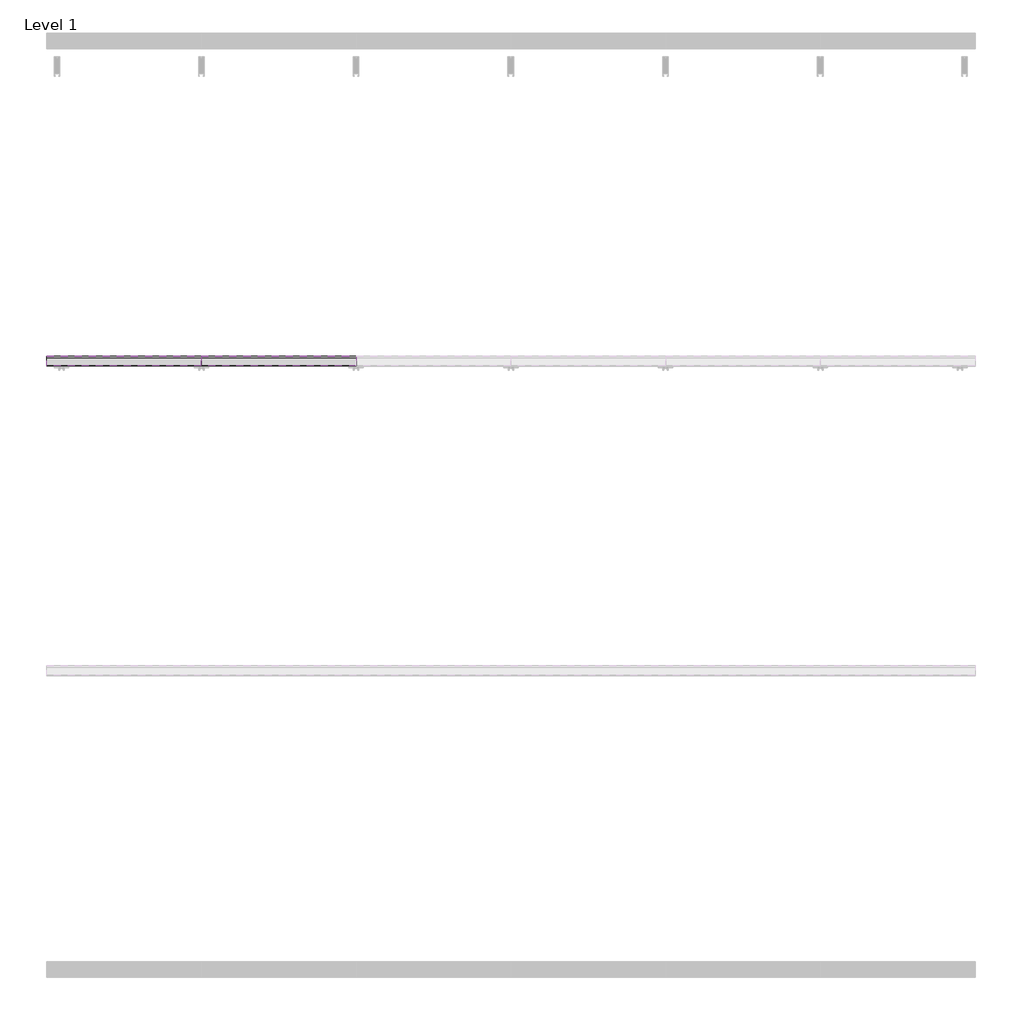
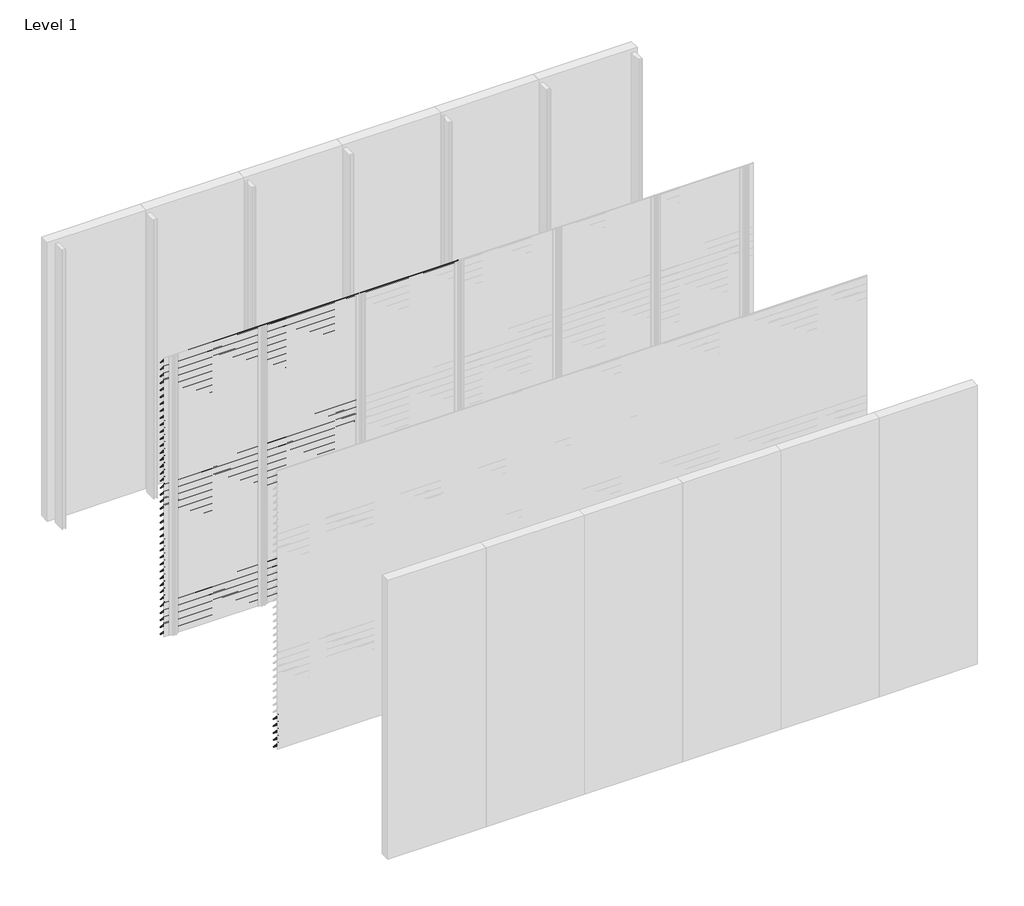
# One storey, part 4 of 35: 86 proxies.
"""IFC4 building model written with IfcOpenShell, lengths in millimetres."""

from ifc_helpers import new_model, si_unit, frame, origin, place, context, project, spatial, polyline, outline, extrude, element, save

model = new_model("IFC4")

# Units and contexts
model_context = context("Model", 3, world=origin())
ifc_project = project(units=[si_unit("LENGTHUNIT", "METRE", prefix="MILLI")], contexts=[model_context])

# Site, building, storey
site = spatial("IfcSite", under=ifc_project)
building = spatial("IfcBuilding", under=site)
storey = spatial("IfcBuildingStorey", under=building, Name="Level 1", Elevation=0.0)

# Proxies
placement = place(None, origin())
element("IfcBuildingElementProxy", 1, Name="Wall Sweeps", at=placement, inside=storey, context=model_context, shape_type="SweptSolid", body=[
    extrude(outline(polyline([(-53996.5, 3000.0), (-53996.5, 2985.5463701), (-53934.5, 2913.9330051), (-53934.5, 2910.4), (-53936.0, 2910.4), (-53936.0, 2913.3738975), (-53998.0, 2984.9872626), (-53998.0, 3000.0), (-53996.5, 3000.0)])), frame((0.0, 0.0, 0.0), z_axis=(1.0, 0.0, 0.0), x_axis=(0.0, 1.0, 0.0)), (0.0, 0.0, 1.0), 1000.0),
])
element("IfcBuildingElementProxy", 2, Name="Wall Sweeps", at=placement, inside=storey, context=model_context, shape_type="SweptSolid", body=[
    extrude(outline(polyline([(-53996.5, 2925.0), (-53996.5, 2910.5463701), (-53934.5, 2838.9330051), (-53934.5, 2835.4), (-53936.0, 2835.4), (-53936.0, 2838.3738975), (-53998.0, 2909.9872626), (-53998.0, 2925.0), (-53996.5, 2925.0)])), frame((0.0, 0.0, 0.0), z_axis=(1.0, 0.0, 0.0), x_axis=(0.0, 1.0, 0.0)), (0.0, 0.0, 1.0), 1000.0),
])
element("IfcBuildingElementProxy", 3, Name="Wall Sweeps", at=placement, inside=storey, context=model_context, shape_type="SweptSolid", body=[
    extrude(outline(polyline([(-53996.5, 2850.0), (-53996.5, 2835.5463701), (-53934.5, 2763.9330051), (-53934.5, 2760.4), (-53936.0, 2760.4), (-53936.0, 2763.3738975), (-53998.0, 2834.9872626), (-53998.0, 2850.0), (-53996.5, 2850.0)])), frame((0.0, 0.0, 0.0), z_axis=(1.0, 0.0, 0.0), x_axis=(0.0, 1.0, 0.0)), (0.0, 0.0, 1.0), 1000.0),
])
element("IfcBuildingElementProxy", 4, Name="Wall Sweeps", at=placement, inside=storey, context=model_context, shape_type="SweptSolid", body=[
    extrude(outline(polyline([(-53996.5, 2775.0), (-53996.5, 2760.5463701), (-53934.5, 2688.9330051), (-53934.5, 2685.4), (-53936.0, 2685.4), (-53936.0, 2688.3738975), (-53998.0, 2759.9872626), (-53998.0, 2775.0), (-53996.5, 2775.0)])), frame((0.0, 0.0, 0.0), z_axis=(1.0, 0.0, 0.0), x_axis=(0.0, 1.0, 0.0)), (0.0, 0.0, 1.0), 1000.0),
])
element("IfcBuildingElementProxy", 5, Name="Wall Sweeps", at=placement, inside=storey, context=model_context, shape_type="SweptSolid", body=[
    extrude(outline(polyline([(-53996.5, 2700.0), (-53996.5, 2685.5463701), (-53934.5, 2613.9330051), (-53934.5, 2610.4), (-53936.0, 2610.4), (-53936.0, 2613.3738975), (-53998.0, 2684.9872626), (-53998.0, 2700.0), (-53996.5, 2700.0)])), frame((0.0, 0.0, 0.0), z_axis=(1.0, 0.0, 0.0), x_axis=(0.0, 1.0, 0.0)), (0.0, 0.0, 1.0), 1000.0),
])
element("IfcBuildingElementProxy", 6, Name="Wall Sweeps", at=placement, inside=storey, context=model_context, shape_type="SweptSolid", body=[
    extrude(outline(polyline([(-53996.5, 2625.0), (-53996.5, 2610.5463701), (-53934.5, 2538.9330051), (-53934.5, 2535.4), (-53936.0, 2535.4), (-53936.0, 2538.3738975), (-53998.0, 2609.9872626), (-53998.0, 2625.0), (-53996.5, 2625.0)])), frame((0.0, 0.0, 0.0), z_axis=(1.0, 0.0, 0.0), x_axis=(0.0, 1.0, 0.0)), (0.0, 0.0, 1.0), 1000.0),
])
element("IfcBuildingElementProxy", 7, Name="Wall Sweeps", at=placement, inside=storey, context=model_context, shape_type="SweptSolid", body=[
    extrude(outline(polyline([(-53996.5, 2550.0), (-53996.5, 2535.5463701), (-53934.5, 2463.9330051), (-53934.5, 2460.4), (-53936.0, 2460.4), (-53936.0, 2463.3738975), (-53998.0, 2534.9872626), (-53998.0, 2550.0), (-53996.5, 2550.0)])), frame((0.0, 0.0, 0.0), z_axis=(1.0, 0.0, 0.0), x_axis=(0.0, 1.0, 0.0)), (0.0, 0.0, 1.0), 1000.0),
])
element("IfcBuildingElementProxy", 8, Name="Wall Sweeps", at=placement, inside=storey, context=model_context, shape_type="SweptSolid", body=[
    extrude(outline(polyline([(-53996.5, 2475.0), (-53996.5, 2460.5463701), (-53934.5, 2388.9330051), (-53934.5, 2385.4), (-53936.0, 2385.4), (-53936.0, 2388.3738975), (-53998.0, 2459.9872626), (-53998.0, 2475.0), (-53996.5, 2475.0)])), frame((0.0, 0.0, 0.0), z_axis=(1.0, 0.0, 0.0), x_axis=(0.0, 1.0, 0.0)), (0.0, 0.0, 1.0), 1000.0),
])
element("IfcBuildingElementProxy", 9, Name="Wall Sweeps", at=placement, inside=storey, context=model_context, shape_type="SweptSolid", body=[
    extrude(outline(polyline([(-53996.5, 2400.0), (-53996.5, 2385.5463701), (-53934.5, 2313.9330051), (-53934.5, 2310.4), (-53936.0, 2310.4), (-53936.0, 2313.3738975), (-53998.0, 2384.9872626), (-53998.0, 2400.0), (-53996.5, 2400.0)])), frame((0.0, 0.0, 0.0), z_axis=(1.0, 0.0, 0.0), x_axis=(0.0, 1.0, 0.0)), (0.0, 0.0, 1.0), 1000.0),
])
element("IfcBuildingElementProxy", 10, Name="Wall Sweeps", at=placement, inside=storey, context=model_context, shape_type="SweptSolid", body=[
    extrude(outline(polyline([(-53996.5, 2325.0), (-53996.5, 2310.5463701), (-53934.5, 2238.9330051), (-53934.5, 2235.4), (-53936.0, 2235.4), (-53936.0, 2238.3738975), (-53998.0, 2309.9872626), (-53998.0, 2325.0), (-53996.5, 2325.0)])), frame((0.0, 0.0, 0.0), z_axis=(1.0, 0.0, 0.0), x_axis=(0.0, 1.0, 0.0)), (0.0, 0.0, 1.0), 1000.0),
])
element("IfcBuildingElementProxy", 11, Name="Wall Sweeps", at=placement, inside=storey, context=model_context, shape_type="SweptSolid", body=[
    extrude(outline(polyline([(-53996.5, 2250.0), (-53996.5, 2235.5463701), (-53934.5, 2163.9330051), (-53934.5, 2160.4), (-53936.0, 2160.4), (-53936.0, 2163.3738975), (-53998.0, 2234.9872626), (-53998.0, 2250.0), (-53996.5, 2250.0)])), frame((0.0, 0.0, 0.0), z_axis=(1.0, 0.0, 0.0), x_axis=(0.0, 1.0, 0.0)), (0.0, 0.0, 1.0), 1000.0),
])
element("IfcBuildingElementProxy", 12, Name="Wall Sweeps", at=placement, inside=storey, context=model_context, shape_type="SweptSolid", body=[
    extrude(outline(polyline([(-53996.5, 2175.0), (-53996.5, 2160.5463701), (-53934.5, 2088.9330051), (-53934.5, 2085.4), (-53936.0, 2085.4), (-53936.0, 2088.3738975), (-53998.0, 2159.9872626), (-53998.0, 2175.0), (-53996.5, 2175.0)])), frame((0.0, 0.0, 0.0), z_axis=(1.0, 0.0, 0.0), x_axis=(0.0, 1.0, 0.0)), (0.0, 0.0, 1.0), 1000.0),
])
element("IfcBuildingElementProxy", 13, Name="Wall Sweeps", at=placement, inside=storey, context=model_context, shape_type="SweptSolid", body=[
    extrude(outline(polyline([(-53996.5, 2100.0), (-53996.5, 2085.5463701), (-53934.5, 2013.9330051), (-53934.5, 2010.4), (-53936.0, 2010.4), (-53936.0, 2013.3738975), (-53998.0, 2084.9872626), (-53998.0, 2100.0), (-53996.5, 2100.0)])), frame((0.0, 0.0, 0.0), z_axis=(1.0, 0.0, 0.0), x_axis=(0.0, 1.0, 0.0)), (0.0, 0.0, 1.0), 1000.0),
])
element("IfcBuildingElementProxy", 14, Name="Wall Sweeps", at=placement, inside=storey, context=model_context, shape_type="SweptSolid", body=[
    extrude(outline(polyline([(-53996.5, 2025.0), (-53996.5, 2010.5463701), (-53934.5, 1938.9330051), (-53934.5, 1935.4), (-53936.0, 1935.4), (-53936.0, 1938.3738975), (-53998.0, 2009.9872626), (-53998.0, 2025.0), (-53996.5, 2025.0)])), frame((0.0, 0.0, 0.0), z_axis=(1.0, 0.0, 0.0), x_axis=(0.0, 1.0, 0.0)), (0.0, 0.0, 1.0), 1000.0),
])
element("IfcBuildingElementProxy", 15, Name="Wall Sweeps", at=placement, inside=storey, context=model_context, shape_type="SweptSolid", body=[
    extrude(outline(polyline([(-53996.5, 1950.0), (-53996.5, 1935.5463701), (-53934.5, 1863.9330051), (-53934.5, 1860.4), (-53936.0, 1860.4), (-53936.0, 1863.3738975), (-53998.0, 1934.9872626), (-53998.0, 1950.0), (-53996.5, 1950.0)])), frame((0.0, 0.0, 0.0), z_axis=(1.0, 0.0, 0.0), x_axis=(0.0, 1.0, 0.0)), (0.0, 0.0, 1.0), 1000.0),
])
element("IfcBuildingElementProxy", 16, Name="Wall Sweeps", at=placement, inside=storey, context=model_context, shape_type="SweptSolid", body=[
    extrude(outline(polyline([(-53996.5, 1875.0), (-53996.5, 1860.5463701), (-53934.5, 1788.9330051), (-53934.5, 1785.4), (-53936.0, 1785.4), (-53936.0, 1788.3738975), (-53998.0, 1859.9872626), (-53998.0, 1875.0), (-53996.5, 1875.0)])), frame((0.0, 0.0, 0.0), z_axis=(1.0, 0.0, 0.0), x_axis=(0.0, 1.0, 0.0)), (0.0, 0.0, 1.0), 1000.0),
])
element("IfcBuildingElementProxy", 17, Name="Wall Sweeps", at=placement, inside=storey, context=model_context, shape_type="SweptSolid", body=[
    extrude(outline(polyline([(-53996.5, 1800.0), (-53996.5, 1785.5463701), (-53934.5, 1713.9330051), (-53934.5, 1710.4), (-53936.0, 1710.4), (-53936.0, 1713.3738975), (-53998.0, 1784.9872626), (-53998.0, 1800.0), (-53996.5, 1800.0)])), frame((0.0, 0.0, 0.0), z_axis=(1.0, 0.0, 0.0), x_axis=(0.0, 1.0, 0.0)), (0.0, 0.0, 1.0), 1000.0),
])
element("IfcBuildingElementProxy", 18, Name="Wall Sweeps", at=placement, inside=storey, context=model_context, shape_type="SweptSolid", body=[
    extrude(outline(polyline([(-53996.5, 1725.0), (-53996.5, 1710.5463701), (-53934.5, 1638.9330051), (-53934.5, 1635.4), (-53936.0, 1635.4), (-53936.0, 1638.3738975), (-53998.0, 1709.9872626), (-53998.0, 1725.0), (-53996.5, 1725.0)])), frame((0.0, 0.0, 0.0), z_axis=(1.0, 0.0, 0.0), x_axis=(0.0, 1.0, 0.0)), (0.0, 0.0, 1.0), 1000.0),
])
element("IfcBuildingElementProxy", 19, Name="Wall Sweeps", at=placement, inside=storey, context=model_context, shape_type="SweptSolid", body=[
    extrude(outline(polyline([(-53996.5, 1650.0), (-53996.5, 1635.5463701), (-53934.5, 1563.9330051), (-53934.5, 1560.4), (-53936.0, 1560.4), (-53936.0, 1563.3738975), (-53998.0, 1634.9872626), (-53998.0, 1650.0), (-53996.5, 1650.0)])), frame((0.0, 0.0, 0.0), z_axis=(1.0, 0.0, 0.0), x_axis=(0.0, 1.0, 0.0)), (0.0, 0.0, 1.0), 1000.0),
])
element("IfcBuildingElementProxy", 20, Name="Wall Sweeps", at=placement, inside=storey, context=model_context, shape_type="SweptSolid", body=[
    extrude(outline(polyline([(-53996.5, 1575.0), (-53996.5, 1560.5463701), (-53934.5, 1488.9330051), (-53934.5, 1485.4), (-53936.0, 1485.4), (-53936.0, 1488.3738975), (-53998.0, 1559.9872626), (-53998.0, 1575.0), (-53996.5, 1575.0)])), frame((0.0, 0.0, 0.0), z_axis=(1.0, 0.0, 0.0), x_axis=(0.0, 1.0, 0.0)), (0.0, 0.0, 1.0), 1000.0),
])
element("IfcBuildingElementProxy", 21, Name="Wall Sweeps", at=placement, inside=storey, context=model_context, shape_type="SweptSolid", body=[
    extrude(outline(polyline([(-53996.5, 1500.0), (-53996.5, 1485.5463701), (-53934.5, 1413.9330051), (-53934.5, 1410.4), (-53936.0, 1410.4), (-53936.0, 1413.3738975), (-53998.0, 1484.9872626), (-53998.0, 1500.0), (-53996.5, 1500.0)])), frame((0.0, 0.0, 0.0), z_axis=(1.0, 0.0, 0.0), x_axis=(0.0, 1.0, 0.0)), (0.0, 0.0, 1.0), 1000.0),
])
element("IfcBuildingElementProxy", 22, Name="Wall Sweeps", at=placement, inside=storey, context=model_context, shape_type="SweptSolid", body=[
    extrude(outline(polyline([(-53996.5, 1425.0), (-53996.5, 1410.5463701), (-53934.5, 1338.9330051), (-53934.5, 1335.4), (-53936.0, 1335.4), (-53936.0, 1338.3738975), (-53998.0, 1409.9872626), (-53998.0, 1425.0), (-53996.5, 1425.0)])), frame((0.0, 0.0, 0.0), z_axis=(1.0, 0.0, 0.0), x_axis=(0.0, 1.0, 0.0)), (0.0, 0.0, 1.0), 1000.0),
])
element("IfcBuildingElementProxy", 23, Name="Wall Sweeps", at=placement, inside=storey, context=model_context, shape_type="SweptSolid", body=[
    extrude(outline(polyline([(-53996.5, 1350.0), (-53996.5, 1335.5463701), (-53934.5, 1263.9330051), (-53934.5, 1260.4), (-53936.0, 1260.4), (-53936.0, 1263.3738975), (-53998.0, 1334.9872626), (-53998.0, 1350.0), (-53996.5, 1350.0)])), frame((0.0, 0.0, 0.0), z_axis=(1.0, 0.0, 0.0), x_axis=(0.0, 1.0, 0.0)), (0.0, 0.0, 1.0), 1000.0),
])
element("IfcBuildingElementProxy", 24, Name="Wall Sweeps", at=placement, inside=storey, context=model_context, shape_type="SweptSolid", body=[
    extrude(outline(polyline([(-53996.5, 1275.0), (-53996.5, 1260.5463701), (-53934.5, 1188.9330051), (-53934.5, 1185.4), (-53936.0, 1185.4), (-53936.0, 1188.3738975), (-53998.0, 1259.9872626), (-53998.0, 1275.0), (-53996.5, 1275.0)])), frame((0.0, 0.0, 0.0), z_axis=(1.0, 0.0, 0.0), x_axis=(0.0, 1.0, 0.0)), (0.0, 0.0, 1.0), 1000.0),
])
element("IfcBuildingElementProxy", 25, Name="Wall Sweeps", at=placement, inside=storey, context=model_context, shape_type="SweptSolid", body=[
    extrude(outline(polyline([(-53996.5, 1200.0), (-53996.5, 1185.5463701), (-53934.5, 1113.9330051), (-53934.5, 1110.4), (-53936.0, 1110.4), (-53936.0, 1113.3738975), (-53998.0, 1184.9872626), (-53998.0, 1200.0), (-53996.5, 1200.0)])), frame((0.0, 0.0, 0.0), z_axis=(1.0, 0.0, 0.0), x_axis=(0.0, 1.0, 0.0)), (0.0, 0.0, 1.0), 1000.0),
])
element("IfcBuildingElementProxy", 26, Name="Wall Sweeps", at=placement, inside=storey, context=model_context, shape_type="SweptSolid", body=[
    extrude(outline(polyline([(-53996.5, 1125.0), (-53996.5, 1110.5463701), (-53934.5, 1038.9330051), (-53934.5, 1035.4), (-53936.0, 1035.4), (-53936.0, 1038.3738975), (-53998.0, 1109.9872626), (-53998.0, 1125.0), (-53996.5, 1125.0)])), frame((0.0, 0.0, 0.0), z_axis=(1.0, 0.0, 0.0), x_axis=(0.0, 1.0, 0.0)), (0.0, 0.0, 1.0), 1000.0),
])
element("IfcBuildingElementProxy", 27, Name="Wall Sweeps", at=placement, inside=storey, context=model_context, shape_type="SweptSolid", body=[
    extrude(outline(polyline([(-53996.5, 1050.0), (-53996.5, 1035.5463701), (-53934.5, 963.9330051), (-53934.5, 960.4), (-53936.0, 960.4), (-53936.0, 963.3738975), (-53998.0, 1034.9872626), (-53998.0, 1050.0), (-53996.5, 1050.0)])), frame((0.0, 0.0, 0.0), z_axis=(1.0, 0.0, 0.0), x_axis=(0.0, 1.0, 0.0)), (0.0, 0.0, 1.0), 1000.0),
])
element("IfcBuildingElementProxy", 28, Name="Wall Sweeps", at=placement, inside=storey, context=model_context, shape_type="SweptSolid", body=[
    extrude(outline(polyline([(-53996.5, 975.0), (-53996.5, 960.5463701), (-53934.5, 888.9330051), (-53934.5, 885.4), (-53936.0, 885.4), (-53936.0, 888.3738975), (-53998.0, 959.9872626), (-53998.0, 975.0), (-53996.5, 975.0)])), frame((0.0, 0.0, 0.0), z_axis=(1.0, 0.0, 0.0), x_axis=(0.0, 1.0, 0.0)), (0.0, 0.0, 1.0), 1000.0),
])
element("IfcBuildingElementProxy", 29, Name="Wall Sweeps", at=placement, inside=storey, context=model_context, shape_type="SweptSolid", body=[
    extrude(outline(polyline([(-53996.5, 900.0), (-53996.5, 885.5463701), (-53934.5, 813.9330051), (-53934.5, 810.4), (-53936.0, 810.4), (-53936.0, 813.3738975), (-53998.0, 884.9872626), (-53998.0, 900.0), (-53996.5, 900.0)])), frame((0.0, 0.0, 0.0), z_axis=(1.0, 0.0, 0.0), x_axis=(0.0, 1.0, 0.0)), (0.0, 0.0, 1.0), 1000.0),
])
element("IfcBuildingElementProxy", 30, Name="Wall Sweeps", at=placement, inside=storey, context=model_context, shape_type="SweptSolid", body=[
    extrude(outline(polyline([(-53996.5, 825.0), (-53996.5, 810.5463701), (-53934.5, 738.9330051), (-53934.5, 735.4), (-53936.0, 735.4), (-53936.0, 738.3738975), (-53998.0, 809.9872626), (-53998.0, 825.0), (-53996.5, 825.0)])), frame((0.0, 0.0, 0.0), z_axis=(1.0, 0.0, 0.0), x_axis=(0.0, 1.0, 0.0)), (0.0, 0.0, 1.0), 1000.0),
])
element("IfcBuildingElementProxy", 31, Name="Wall Sweeps", at=placement, inside=storey, context=model_context, shape_type="SweptSolid", body=[
    extrude(outline(polyline([(-53996.5, 750.0), (-53996.5, 735.5463701), (-53934.5, 663.9330051), (-53934.5, 660.4), (-53936.0, 660.4), (-53936.0, 663.3738975), (-53998.0, 734.9872626), (-53998.0, 750.0), (-53996.5, 750.0)])), frame((0.0, 0.0, 0.0), z_axis=(1.0, 0.0, 0.0), x_axis=(0.0, 1.0, 0.0)), (0.0, 0.0, 1.0), 1000.0),
])
element("IfcBuildingElementProxy", 32, Name="Wall Sweeps", at=placement, inside=storey, context=model_context, shape_type="SweptSolid", body=[
    extrude(outline(polyline([(-53996.5, 675.0), (-53996.5, 660.5463701), (-53934.5, 588.9330051), (-53934.5, 585.4), (-53936.0, 585.4), (-53936.0, 588.3738975), (-53998.0, 659.9872626), (-53998.0, 675.0), (-53996.5, 675.0)])), frame((0.0, 0.0, 0.0), z_axis=(1.0, 0.0, 0.0), x_axis=(0.0, 1.0, 0.0)), (0.0, 0.0, 1.0), 1000.0),
])
element("IfcBuildingElementProxy", 33, Name="Wall Sweeps", at=placement, inside=storey, context=model_context, shape_type="SweptSolid", body=[
    extrude(outline(polyline([(-53996.5, 600.0), (-53996.5, 585.5463701), (-53934.5, 513.9330051), (-53934.5, 510.4), (-53936.0, 510.4), (-53936.0, 513.3738975), (-53998.0, 584.9872626), (-53998.0, 600.0), (-53996.5, 600.0)])), frame((0.0, 0.0, 0.0), z_axis=(1.0, 0.0, 0.0), x_axis=(0.0, 1.0, 0.0)), (0.0, 0.0, 1.0), 1000.0),
])
element("IfcBuildingElementProxy", 34, Name="Wall Sweeps", at=placement, inside=storey, context=model_context, shape_type="SweptSolid", body=[
    extrude(outline(polyline([(-53996.5, 525.0), (-53996.5, 510.5463701), (-53934.5, 438.9330051), (-53934.5, 435.4), (-53936.0, 435.4), (-53936.0, 438.3738975), (-53998.0, 509.9872626), (-53998.0, 525.0), (-53996.5, 525.0)])), frame((0.0, 0.0, 0.0), z_axis=(1.0, 0.0, 0.0), x_axis=(0.0, 1.0, 0.0)), (0.0, 0.0, 1.0), 1000.0),
])
element("IfcBuildingElementProxy", 35, Name="Wall Sweeps", at=placement, inside=storey, context=model_context, shape_type="SweptSolid", body=[
    extrude(outline(polyline([(-53996.5, 450.0), (-53996.5, 435.5463701), (-53934.5, 363.9330051), (-53934.5, 360.4), (-53936.0, 360.4), (-53936.0, 363.3738975), (-53998.0, 434.9872626), (-53998.0, 450.0), (-53996.5, 450.0)])), frame((0.0, 0.0, 0.0), z_axis=(1.0, 0.0, 0.0), x_axis=(0.0, 1.0, 0.0)), (0.0, 0.0, 1.0), 1000.0),
])
element("IfcBuildingElementProxy", 36, Name="Wall Sweeps", at=placement, inside=storey, context=model_context, shape_type="SweptSolid", body=[
    extrude(outline(polyline([(-53996.5, 375.0), (-53996.5, 360.5463701), (-53934.5, 288.9330051), (-53934.5, 285.4), (-53936.0, 285.4), (-53936.0, 288.3738975), (-53998.0, 359.9872626), (-53998.0, 375.0), (-53996.5, 375.0)])), frame((0.0, 0.0, 0.0), z_axis=(1.0, 0.0, 0.0), x_axis=(0.0, 1.0, 0.0)), (0.0, 0.0, 1.0), 1000.0),
])
element("IfcBuildingElementProxy", 37, Name="Wall Sweeps", at=placement, inside=storey, context=model_context, shape_type="SweptSolid", body=[
    extrude(outline(polyline([(-53996.5, 300.0), (-53996.5, 285.5463701), (-53934.5, 213.9330051), (-53934.5, 210.4), (-53936.0, 210.4), (-53936.0, 213.3738975), (-53998.0, 284.9872626), (-53998.0, 300.0), (-53996.5, 300.0)])), frame((0.0, 0.0, 0.0), z_axis=(1.0, 0.0, 0.0), x_axis=(0.0, 1.0, 0.0)), (0.0, 0.0, 1.0), 1000.0),
])
element("IfcBuildingElementProxy", 38, Name="Wall Sweeps", at=placement, inside=storey, context=model_context, shape_type="SweptSolid", body=[
    extrude(outline(polyline([(-53996.5, 225.0), (-53996.5, 210.5463701), (-53934.5, 138.9330051), (-53934.5, 135.4), (-53936.0, 135.4), (-53936.0, 138.3738975), (-53998.0, 209.9872626), (-53998.0, 225.0), (-53996.5, 225.0)])), frame((0.0, 0.0, 0.0), z_axis=(1.0, 0.0, 0.0), x_axis=(0.0, 1.0, 0.0)), (0.0, 0.0, 1.0), 1000.0),
])
element("IfcBuildingElementProxy", 39, Name="Wall Sweeps", at=placement, inside=storey, context=model_context, shape_type="SweptSolid", body=[
    extrude(outline(polyline([(-53996.5, 150.0), (-53996.5, 135.5463701), (-53934.5, 63.9330051), (-53934.5, 60.4), (-53936.0, 60.4), (-53936.0, 63.3738975), (-53998.0, 134.9872626), (-53998.0, 150.0), (-53996.5, 150.0)])), frame((0.0, 0.0, 0.0), z_axis=(1.0, 0.0, 0.0), x_axis=(0.0, 1.0, 0.0)), (0.0, 0.0, 1.0), 1000.0),
])
element("IfcBuildingElementProxy", 40, Name="Wall Sweeps", at=placement, inside=storey, context=model_context, shape_type="SweptSolid", body=[
    extrude(outline(polyline([(-53996.5, 75.0), (-53996.5, 60.5463701), (-53934.5, -11.0669949), (-53934.5, -14.6), (-53936.0, -14.6), (-53936.0, -11.6261025), (-53998.0, 59.9872626), (-53998.0, 75.0), (-53996.5, 75.0)])), frame((0.0, 0.0, 0.0), z_axis=(1.0, 0.0, 0.0), x_axis=(0.0, 1.0, 0.0)), (0.0, 0.0, 1.0), 1000.0),
])
element("IfcBuildingElementProxy", 41, Name="Wall Sweeps", at=placement, inside=storey, context=model_context, shape_type="SweptSolid", body=[
    extrude(outline(polyline([(-53996.5, 3000.0), (-53996.5, 2985.5463701), (-53934.5, 2913.9330051), (-53934.5, 2910.4), (-53936.0, 2910.4), (-53936.0, 2913.3738975), (-53998.0, 2984.9872626), (-53998.0, 3000.0), (-53996.5, 3000.0)])), frame((1000.0, 0.0, 0.0), z_axis=(1.0, 0.0, 0.0), x_axis=(0.0, 1.0, 0.0)), (0.0, 0.0, 1.0), 1000.0),
])
element("IfcBuildingElementProxy", 42, Name="Wall Sweeps", at=placement, inside=storey, context=model_context, shape_type="SweptSolid", body=[
    extrude(outline(polyline([(-53996.5, 2925.0), (-53996.5, 2910.5463701), (-53934.5, 2838.9330051), (-53934.5, 2835.4), (-53936.0, 2835.4), (-53936.0, 2838.3738975), (-53998.0, 2909.9872626), (-53998.0, 2925.0), (-53996.5, 2925.0)])), frame((1000.0, 0.0, 0.0), z_axis=(1.0, 0.0, 0.0), x_axis=(0.0, 1.0, 0.0)), (0.0, 0.0, 1.0), 1000.0),
])
element("IfcBuildingElementProxy", 43, Name="Wall Sweeps", at=placement, inside=storey, context=model_context, shape_type="SweptSolid", body=[
    extrude(outline(polyline([(-53996.5, 2850.0), (-53996.5, 2835.5463701), (-53934.5, 2763.9330051), (-53934.5, 2760.4), (-53936.0, 2760.4), (-53936.0, 2763.3738975), (-53998.0, 2834.9872626), (-53998.0, 2850.0), (-53996.5, 2850.0)])), frame((1000.0, 0.0, 0.0), z_axis=(1.0, 0.0, 0.0), x_axis=(0.0, 1.0, 0.0)), (0.0, 0.0, 1.0), 1000.0),
])
element("IfcBuildingElementProxy", 44, Name="Wall Sweeps", at=placement, inside=storey, context=model_context, shape_type="SweptSolid", body=[
    extrude(outline(polyline([(-53996.5, 2775.0), (-53996.5, 2760.5463701), (-53934.5, 2688.9330051), (-53934.5, 2685.4), (-53936.0, 2685.4), (-53936.0, 2688.3738975), (-53998.0, 2759.9872626), (-53998.0, 2775.0), (-53996.5, 2775.0)])), frame((1000.0, 0.0, 0.0), z_axis=(1.0, 0.0, 0.0), x_axis=(0.0, 1.0, 0.0)), (0.0, 0.0, 1.0), 1000.0),
])
element("IfcBuildingElementProxy", 45, Name="Wall Sweeps", at=placement, inside=storey, context=model_context, shape_type="SweptSolid", body=[
    extrude(outline(polyline([(-53996.5, 2700.0), (-53996.5, 2685.5463701), (-53934.5, 2613.9330051), (-53934.5, 2610.4), (-53936.0, 2610.4), (-53936.0, 2613.3738975), (-53998.0, 2684.9872626), (-53998.0, 2700.0), (-53996.5, 2700.0)])), frame((1000.0, 0.0, 0.0), z_axis=(1.0, 0.0, 0.0), x_axis=(0.0, 1.0, 0.0)), (0.0, 0.0, 1.0), 1000.0),
])
element("IfcBuildingElementProxy", 46, Name="Wall Sweeps", at=placement, inside=storey, context=model_context, shape_type="SweptSolid", body=[
    extrude(outline(polyline([(-53996.5, 2625.0), (-53996.5, 2610.5463701), (-53934.5, 2538.9330051), (-53934.5, 2535.4), (-53936.0, 2535.4), (-53936.0, 2538.3738975), (-53998.0, 2609.9872626), (-53998.0, 2625.0), (-53996.5, 2625.0)])), frame((1000.0, 0.0, 0.0), z_axis=(1.0, 0.0, 0.0), x_axis=(0.0, 1.0, 0.0)), (0.0, 0.0, 1.0), 1000.0),
])
element("IfcBuildingElementProxy", 47, Name="Wall Sweeps", at=placement, inside=storey, context=model_context, shape_type="SweptSolid", body=[
    extrude(outline(polyline([(-53996.5, 2550.0), (-53996.5, 2535.5463701), (-53934.5, 2463.9330051), (-53934.5, 2460.4), (-53936.0, 2460.4), (-53936.0, 2463.3738975), (-53998.0, 2534.9872626), (-53998.0, 2550.0), (-53996.5, 2550.0)])), frame((1000.0, 0.0, 0.0), z_axis=(1.0, 0.0, 0.0), x_axis=(0.0, 1.0, 0.0)), (0.0, 0.0, 1.0), 1000.0),
])
element("IfcBuildingElementProxy", 48, Name="Wall Sweeps", at=placement, inside=storey, context=model_context, shape_type="SweptSolid", body=[
    extrude(outline(polyline([(-53996.5, 2475.0), (-53996.5, 2460.5463701), (-53934.5, 2388.9330051), (-53934.5, 2385.4), (-53936.0, 2385.4), (-53936.0, 2388.3738975), (-53998.0, 2459.9872626), (-53998.0, 2475.0), (-53996.5, 2475.0)])), frame((1000.0, 0.0, 0.0), z_axis=(1.0, 0.0, 0.0), x_axis=(0.0, 1.0, 0.0)), (0.0, 0.0, 1.0), 1000.0),
])
element("IfcBuildingElementProxy", 49, Name="Wall Sweeps", at=placement, inside=storey, context=model_context, shape_type="SweptSolid", body=[
    extrude(outline(polyline([(-53996.5, 2400.0), (-53996.5, 2385.5463701), (-53934.5, 2313.9330051), (-53934.5, 2310.4), (-53936.0, 2310.4), (-53936.0, 2313.3738975), (-53998.0, 2384.9872626), (-53998.0, 2400.0), (-53996.5, 2400.0)])), frame((1000.0, 0.0, 0.0), z_axis=(1.0, 0.0, 0.0), x_axis=(0.0, 1.0, 0.0)), (0.0, 0.0, 1.0), 1000.0),
])
element("IfcBuildingElementProxy", 50, Name="Wall Sweeps", at=placement, inside=storey, context=model_context, shape_type="SweptSolid", body=[
    extrude(outline(polyline([(-53996.5, 2325.0), (-53996.5, 2310.5463701), (-53934.5, 2238.9330051), (-53934.5, 2235.4), (-53936.0, 2235.4), (-53936.0, 2238.3738975), (-53998.0, 2309.9872626), (-53998.0, 2325.0), (-53996.5, 2325.0)])), frame((1000.0, 0.0, 0.0), z_axis=(1.0, 0.0, 0.0), x_axis=(0.0, 1.0, 0.0)), (0.0, 0.0, 1.0), 1000.0),
])
element("IfcBuildingElementProxy", 51, Name="Wall Sweeps", at=placement, inside=storey, context=model_context, shape_type="SweptSolid", body=[
    extrude(outline(polyline([(-53996.5, 2250.0), (-53996.5, 2235.5463701), (-53934.5, 2163.9330051), (-53934.5, 2160.4), (-53936.0, 2160.4), (-53936.0, 2163.3738975), (-53998.0, 2234.9872626), (-53998.0, 2250.0), (-53996.5, 2250.0)])), frame((1000.0, 0.0, 0.0), z_axis=(1.0, 0.0, 0.0), x_axis=(0.0, 1.0, 0.0)), (0.0, 0.0, 1.0), 1000.0),
])
element("IfcBuildingElementProxy", 52, Name="Wall Sweeps", at=placement, inside=storey, context=model_context, shape_type="SweptSolid", body=[
    extrude(outline(polyline([(-53996.5, 2175.0), (-53996.5, 2160.5463701), (-53934.5, 2088.9330051), (-53934.5, 2085.4), (-53936.0, 2085.4), (-53936.0, 2088.3738975), (-53998.0, 2159.9872626), (-53998.0, 2175.0), (-53996.5, 2175.0)])), frame((1000.0, 0.0, 0.0), z_axis=(1.0, 0.0, 0.0), x_axis=(0.0, 1.0, 0.0)), (0.0, 0.0, 1.0), 1000.0),
])
element("IfcBuildingElementProxy", 53, Name="Wall Sweeps", at=placement, inside=storey, context=model_context, shape_type="SweptSolid", body=[
    extrude(outline(polyline([(-53996.5, 2100.0), (-53996.5, 2085.5463701), (-53934.5, 2013.9330051), (-53934.5, 2010.4), (-53936.0, 2010.4), (-53936.0, 2013.3738975), (-53998.0, 2084.9872626), (-53998.0, 2100.0), (-53996.5, 2100.0)])), frame((1000.0, 0.0, 0.0), z_axis=(1.0, 0.0, 0.0), x_axis=(0.0, 1.0, 0.0)), (0.0, 0.0, 1.0), 1000.0),
])
element("IfcBuildingElementProxy", 54, Name="Wall Sweeps", at=placement, inside=storey, context=model_context, shape_type="SweptSolid", body=[
    extrude(outline(polyline([(-53996.5, 2025.0), (-53996.5, 2010.5463701), (-53934.5, 1938.9330051), (-53934.5, 1935.4), (-53936.0, 1935.4), (-53936.0, 1938.3738975), (-53998.0, 2009.9872626), (-53998.0, 2025.0), (-53996.5, 2025.0)])), frame((1000.0, 0.0, 0.0), z_axis=(1.0, 0.0, 0.0), x_axis=(0.0, 1.0, 0.0)), (0.0, 0.0, 1.0), 1000.0),
])
element("IfcBuildingElementProxy", 55, Name="Wall Sweeps", at=placement, inside=storey, context=model_context, shape_type="SweptSolid", body=[
    extrude(outline(polyline([(-53996.5, 1950.0), (-53996.5, 1935.5463701), (-53934.5, 1863.9330051), (-53934.5, 1860.4), (-53936.0, 1860.4), (-53936.0, 1863.3738975), (-53998.0, 1934.9872626), (-53998.0, 1950.0), (-53996.5, 1950.0)])), frame((1000.0, 0.0, 0.0), z_axis=(1.0, 0.0, 0.0), x_axis=(0.0, 1.0, 0.0)), (0.0, 0.0, 1.0), 1000.0),
])
element("IfcBuildingElementProxy", 56, Name="Wall Sweeps", at=placement, inside=storey, context=model_context, shape_type="SweptSolid", body=[
    extrude(outline(polyline([(-53996.5, 1875.0), (-53996.5, 1860.5463701), (-53934.5, 1788.9330051), (-53934.5, 1785.4), (-53936.0, 1785.4), (-53936.0, 1788.3738975), (-53998.0, 1859.9872626), (-53998.0, 1875.0), (-53996.5, 1875.0)])), frame((1000.0, 0.0, 0.0), z_axis=(1.0, 0.0, 0.0), x_axis=(0.0, 1.0, 0.0)), (0.0, 0.0, 1.0), 1000.0),
])
element("IfcBuildingElementProxy", 57, Name="Wall Sweeps", at=placement, inside=storey, context=model_context, shape_type="SweptSolid", body=[
    extrude(outline(polyline([(-53996.5, 1800.0), (-53996.5, 1785.5463701), (-53934.5, 1713.9330051), (-53934.5, 1710.4), (-53936.0, 1710.4), (-53936.0, 1713.3738975), (-53998.0, 1784.9872626), (-53998.0, 1800.0), (-53996.5, 1800.0)])), frame((1000.0, 0.0, 0.0), z_axis=(1.0, 0.0, 0.0), x_axis=(0.0, 1.0, 0.0)), (0.0, 0.0, 1.0), 1000.0),
])
element("IfcBuildingElementProxy", 58, Name="Wall Sweeps", at=placement, inside=storey, context=model_context, shape_type="SweptSolid", body=[
    extrude(outline(polyline([(-53996.5, 1725.0), (-53996.5, 1710.5463701), (-53934.5, 1638.9330051), (-53934.5, 1635.4), (-53936.0, 1635.4), (-53936.0, 1638.3738975), (-53998.0, 1709.9872626), (-53998.0, 1725.0), (-53996.5, 1725.0)])), frame((1000.0, 0.0, 0.0), z_axis=(1.0, 0.0, 0.0), x_axis=(0.0, 1.0, 0.0)), (0.0, 0.0, 1.0), 1000.0),
])
element("IfcBuildingElementProxy", 59, Name="Wall Sweeps", at=placement, inside=storey, context=model_context, shape_type="SweptSolid", body=[
    extrude(outline(polyline([(-53996.5, 1650.0), (-53996.5, 1635.5463701), (-53934.5, 1563.9330051), (-53934.5, 1560.4), (-53936.0, 1560.4), (-53936.0, 1563.3738975), (-53998.0, 1634.9872626), (-53998.0, 1650.0), (-53996.5, 1650.0)])), frame((1000.0, 0.0, 0.0), z_axis=(1.0, 0.0, 0.0), x_axis=(0.0, 1.0, 0.0)), (0.0, 0.0, 1.0), 1000.0),
])
element("IfcBuildingElementProxy", 60, Name="Wall Sweeps", at=placement, inside=storey, context=model_context, shape_type="SweptSolid", body=[
    extrude(outline(polyline([(-53996.5, 1575.0), (-53996.5, 1560.5463701), (-53934.5, 1488.9330051), (-53934.5, 1485.4), (-53936.0, 1485.4), (-53936.0, 1488.3738975), (-53998.0, 1559.9872626), (-53998.0, 1575.0), (-53996.5, 1575.0)])), frame((1000.0, 0.0, 0.0), z_axis=(1.0, 0.0, 0.0), x_axis=(0.0, 1.0, 0.0)), (0.0, 0.0, 1.0), 1000.0),
])
element("IfcBuildingElementProxy", 61, Name="Wall Sweeps", at=placement, inside=storey, context=model_context, shape_type="SweptSolid", body=[
    extrude(outline(polyline([(-53996.5, 1500.0), (-53996.5, 1485.5463701), (-53934.5, 1413.9330051), (-53934.5, 1410.4), (-53936.0, 1410.4), (-53936.0, 1413.3738975), (-53998.0, 1484.9872626), (-53998.0, 1500.0), (-53996.5, 1500.0)])), frame((1000.0, 0.0, 0.0), z_axis=(1.0, 0.0, 0.0), x_axis=(0.0, 1.0, 0.0)), (0.0, 0.0, 1.0), 1000.0),
])
element("IfcBuildingElementProxy", 62, Name="Wall Sweeps", at=placement, inside=storey, context=model_context, shape_type="SweptSolid", body=[
    extrude(outline(polyline([(-53996.5, 1425.0), (-53996.5, 1410.5463701), (-53934.5, 1338.9330051), (-53934.5, 1335.4), (-53936.0, 1335.4), (-53936.0, 1338.3738975), (-53998.0, 1409.9872626), (-53998.0, 1425.0), (-53996.5, 1425.0)])), frame((1000.0, 0.0, 0.0), z_axis=(1.0, 0.0, 0.0), x_axis=(0.0, 1.0, 0.0)), (0.0, 0.0, 1.0), 1000.0),
])
element("IfcBuildingElementProxy", 63, Name="Wall Sweeps", at=placement, inside=storey, context=model_context, shape_type="SweptSolid", body=[
    extrude(outline(polyline([(-53996.5, 1350.0), (-53996.5, 1335.5463701), (-53934.5, 1263.9330051), (-53934.5, 1260.4), (-53936.0, 1260.4), (-53936.0, 1263.3738975), (-53998.0, 1334.9872626), (-53998.0, 1350.0), (-53996.5, 1350.0)])), frame((1000.0, 0.0, 0.0), z_axis=(1.0, 0.0, 0.0), x_axis=(0.0, 1.0, 0.0)), (0.0, 0.0, 1.0), 1000.0),
])
element("IfcBuildingElementProxy", 64, Name="Wall Sweeps", at=placement, inside=storey, context=model_context, shape_type="SweptSolid", body=[
    extrude(outline(polyline([(-53996.5, 1275.0), (-53996.5, 1260.5463701), (-53934.5, 1188.9330051), (-53934.5, 1185.4), (-53936.0, 1185.4), (-53936.0, 1188.3738975), (-53998.0, 1259.9872626), (-53998.0, 1275.0), (-53996.5, 1275.0)])), frame((1000.0, 0.0, 0.0), z_axis=(1.0, 0.0, 0.0), x_axis=(0.0, 1.0, 0.0)), (0.0, 0.0, 1.0), 1000.0),
])
element("IfcBuildingElementProxy", 65, Name="Wall Sweeps", at=placement, inside=storey, context=model_context, shape_type="SweptSolid", body=[
    extrude(outline(polyline([(-53996.5, 1200.0), (-53996.5, 1185.5463701), (-53934.5, 1113.9330051), (-53934.5, 1110.4), (-53936.0, 1110.4), (-53936.0, 1113.3738975), (-53998.0, 1184.9872626), (-53998.0, 1200.0), (-53996.5, 1200.0)])), frame((1000.0, 0.0, 0.0), z_axis=(1.0, 0.0, 0.0), x_axis=(0.0, 1.0, 0.0)), (0.0, 0.0, 1.0), 1000.0),
])
element("IfcBuildingElementProxy", 66, Name="Wall Sweeps", at=placement, inside=storey, context=model_context, shape_type="SweptSolid", body=[
    extrude(outline(polyline([(-53996.5, 1125.0), (-53996.5, 1110.5463701), (-53934.5, 1038.9330051), (-53934.5, 1035.4), (-53936.0, 1035.4), (-53936.0, 1038.3738975), (-53998.0, 1109.9872626), (-53998.0, 1125.0), (-53996.5, 1125.0)])), frame((1000.0, 0.0, 0.0), z_axis=(1.0, 0.0, 0.0), x_axis=(0.0, 1.0, 0.0)), (0.0, 0.0, 1.0), 1000.0),
])
element("IfcBuildingElementProxy", 67, Name="Wall Sweeps", at=placement, inside=storey, context=model_context, shape_type="SweptSolid", body=[
    extrude(outline(polyline([(-53996.5, 1050.0), (-53996.5, 1035.5463701), (-53934.5, 963.9330051), (-53934.5, 960.4), (-53936.0, 960.4), (-53936.0, 963.3738975), (-53998.0, 1034.9872626), (-53998.0, 1050.0), (-53996.5, 1050.0)])), frame((1000.0, 0.0, 0.0), z_axis=(1.0, 0.0, 0.0), x_axis=(0.0, 1.0, 0.0)), (0.0, 0.0, 1.0), 1000.0),
])
element("IfcBuildingElementProxy", 68, Name="Wall Sweeps", at=placement, inside=storey, context=model_context, shape_type="SweptSolid", body=[
    extrude(outline(polyline([(-53996.5, 975.0), (-53996.5, 960.5463701), (-53934.5, 888.9330051), (-53934.5, 885.4), (-53936.0, 885.4), (-53936.0, 888.3738975), (-53998.0, 959.9872626), (-53998.0, 975.0), (-53996.5, 975.0)])), frame((1000.0, 0.0, 0.0), z_axis=(1.0, 0.0, 0.0), x_axis=(0.0, 1.0, 0.0)), (0.0, 0.0, 1.0), 1000.0),
])
element("IfcBuildingElementProxy", 69, Name="Wall Sweeps", at=placement, inside=storey, context=model_context, shape_type="SweptSolid", body=[
    extrude(outline(polyline([(-53996.5, 900.0), (-53996.5, 885.5463701), (-53934.5, 813.9330051), (-53934.5, 810.4), (-53936.0, 810.4), (-53936.0, 813.3738975), (-53998.0, 884.9872626), (-53998.0, 900.0), (-53996.5, 900.0)])), frame((1000.0, 0.0, 0.0), z_axis=(1.0, 0.0, 0.0), x_axis=(0.0, 1.0, 0.0)), (0.0, 0.0, 1.0), 1000.0),
])
element("IfcBuildingElementProxy", 70, Name="Wall Sweeps", at=placement, inside=storey, context=model_context, shape_type="SweptSolid", body=[
    extrude(outline(polyline([(-53996.5, 825.0), (-53996.5, 810.5463701), (-53934.5, 738.9330051), (-53934.5, 735.4), (-53936.0, 735.4), (-53936.0, 738.3738975), (-53998.0, 809.9872626), (-53998.0, 825.0), (-53996.5, 825.0)])), frame((1000.0, 0.0, 0.0), z_axis=(1.0, 0.0, 0.0), x_axis=(0.0, 1.0, 0.0)), (0.0, 0.0, 1.0), 1000.0),
])
element("IfcBuildingElementProxy", 71, Name="Wall Sweeps", at=placement, inside=storey, context=model_context, shape_type="SweptSolid", body=[
    extrude(outline(polyline([(-53996.5, 750.0), (-53996.5, 735.5463701), (-53934.5, 663.9330051), (-53934.5, 660.4), (-53936.0, 660.4), (-53936.0, 663.3738975), (-53998.0, 734.9872626), (-53998.0, 750.0), (-53996.5, 750.0)])), frame((1000.0, 0.0, 0.0), z_axis=(1.0, 0.0, 0.0), x_axis=(0.0, 1.0, 0.0)), (0.0, 0.0, 1.0), 1000.0),
])
element("IfcBuildingElementProxy", 72, Name="Wall Sweeps", at=placement, inside=storey, context=model_context, shape_type="SweptSolid", body=[
    extrude(outline(polyline([(-53996.5, 675.0), (-53996.5, 660.5463701), (-53934.5, 588.9330051), (-53934.5, 585.4), (-53936.0, 585.4), (-53936.0, 588.3738975), (-53998.0, 659.9872626), (-53998.0, 675.0), (-53996.5, 675.0)])), frame((1000.0, 0.0, 0.0), z_axis=(1.0, 0.0, 0.0), x_axis=(0.0, 1.0, 0.0)), (0.0, 0.0, 1.0), 1000.0),
])
element("IfcBuildingElementProxy", 73, Name="Wall Sweeps", at=placement, inside=storey, context=model_context, shape_type="SweptSolid", body=[
    extrude(outline(polyline([(-53996.5, 600.0), (-53996.5, 585.5463701), (-53934.5, 513.9330051), (-53934.5, 510.4), (-53936.0, 510.4), (-53936.0, 513.3738975), (-53998.0, 584.9872626), (-53998.0, 600.0), (-53996.5, 600.0)])), frame((1000.0, 0.0, 0.0), z_axis=(1.0, 0.0, 0.0), x_axis=(0.0, 1.0, 0.0)), (0.0, 0.0, 1.0), 1000.0),
])
element("IfcBuildingElementProxy", 74, Name="Wall Sweeps", at=placement, inside=storey, context=model_context, shape_type="SweptSolid", body=[
    extrude(outline(polyline([(-53996.5, 525.0), (-53996.5, 510.5463701), (-53934.5, 438.9330051), (-53934.5, 435.4), (-53936.0, 435.4), (-53936.0, 438.3738975), (-53998.0, 509.9872626), (-53998.0, 525.0), (-53996.5, 525.0)])), frame((1000.0, 0.0, 0.0), z_axis=(1.0, 0.0, 0.0), x_axis=(0.0, 1.0, 0.0)), (0.0, 0.0, 1.0), 1000.0),
])
element("IfcBuildingElementProxy", 75, Name="Wall Sweeps", at=placement, inside=storey, context=model_context, shape_type="SweptSolid", body=[
    extrude(outline(polyline([(-53996.5, 450.0), (-53996.5, 435.5463701), (-53934.5, 363.9330051), (-53934.5, 360.4), (-53936.0, 360.4), (-53936.0, 363.3738975), (-53998.0, 434.9872626), (-53998.0, 450.0), (-53996.5, 450.0)])), frame((1000.0, 0.0, 0.0), z_axis=(1.0, 0.0, 0.0), x_axis=(0.0, 1.0, 0.0)), (0.0, 0.0, 1.0), 1000.0),
])
element("IfcBuildingElementProxy", 76, Name="Wall Sweeps", at=placement, inside=storey, context=model_context, shape_type="SweptSolid", body=[
    extrude(outline(polyline([(-53996.5, 375.0), (-53996.5, 360.5463701), (-53934.5, 288.9330051), (-53934.5, 285.4), (-53936.0, 285.4), (-53936.0, 288.3738975), (-53998.0, 359.9872626), (-53998.0, 375.0), (-53996.5, 375.0)])), frame((1000.0, 0.0, 0.0), z_axis=(1.0, 0.0, 0.0), x_axis=(0.0, 1.0, 0.0)), (0.0, 0.0, 1.0), 1000.0),
])
element("IfcBuildingElementProxy", 77, Name="Wall Sweeps", at=placement, inside=storey, context=model_context, shape_type="SweptSolid", body=[
    extrude(outline(polyline([(-53996.5, 300.0), (-53996.5, 285.5463701), (-53934.5, 213.9330051), (-53934.5, 210.4), (-53936.0, 210.4), (-53936.0, 213.3738975), (-53998.0, 284.9872626), (-53998.0, 300.0), (-53996.5, 300.0)])), frame((1000.0, 0.0, 0.0), z_axis=(1.0, 0.0, 0.0), x_axis=(0.0, 1.0, 0.0)), (0.0, 0.0, 1.0), 1000.0),
])
element("IfcBuildingElementProxy", 78, Name="Wall Sweeps", at=placement, inside=storey, context=model_context, shape_type="SweptSolid", body=[
    extrude(outline(polyline([(-53996.5, 225.0), (-53996.5, 210.5463701), (-53934.5, 138.9330051), (-53934.5, 135.4), (-53936.0, 135.4), (-53936.0, 138.3738975), (-53998.0, 209.9872626), (-53998.0, 225.0), (-53996.5, 225.0)])), frame((1000.0, 0.0, 0.0), z_axis=(1.0, 0.0, 0.0), x_axis=(0.0, 1.0, 0.0)), (0.0, 0.0, 1.0), 1000.0),
])
element("IfcBuildingElementProxy", 79, Name="Wall Sweeps", at=placement, inside=storey, context=model_context, shape_type="SweptSolid", body=[
    extrude(outline(polyline([(-53996.5, 150.0), (-53996.5, 135.5463701), (-53934.5, 63.9330051), (-53934.5, 60.4), (-53936.0, 60.4), (-53936.0, 63.3738975), (-53998.0, 134.9872626), (-53998.0, 150.0), (-53996.5, 150.0)])), frame((1000.0, 0.0, 0.0), z_axis=(1.0, 0.0, 0.0), x_axis=(0.0, 1.0, 0.0)), (0.0, 0.0, 1.0), 1000.0),
])
element("IfcBuildingElementProxy", 80, Name="Wall Sweeps", at=placement, inside=storey, context=model_context, shape_type="SweptSolid", body=[
    extrude(outline(polyline([(-53996.5, 75.0), (-53996.5, 60.5463701), (-53934.5, -11.0669949), (-53934.5, -14.6), (-53936.0, -14.6), (-53936.0, -11.6261025), (-53998.0, 59.9872626), (-53998.0, 75.0), (-53996.5, 75.0)])), frame((1000.0, 0.0, 0.0), z_axis=(1.0, 0.0, 0.0), x_axis=(0.0, 1.0, 0.0)), (0.0, 0.0, 1.0), 1000.0),
])
element("IfcBuildingElementProxy", 81, Name="Wall Sweeps", at=placement, inside=storey, context=model_context, shape_type="SweptSolid", body=[
    extrude(outline(polyline([(-53996.5, 3000.0), (-53996.5, 2985.5463701), (-53934.5, 2913.9330051), (-53934.5, 2910.4), (-53936.0, 2910.4), (-53936.0, 2913.3738975), (-53998.0, 2984.9872626), (-53998.0, 3000.0), (-53996.5, 3000.0)])), frame((2000.0, 0.0, 0.0), z_axis=(1.0, 0.0, 0.0), x_axis=(0.0, 1.0, 0.0)), (0.0, 0.0, 1.0), 1000.0),
])
element("IfcBuildingElementProxy", 82, Name="Wall Sweeps", at=placement, inside=storey, context=model_context, shape_type="SweptSolid", body=[
    extrude(outline(polyline([(-55996.5, 375.0), (-55996.5, 360.5463701), (-55934.5, 288.9330051), (-55934.5, 285.4), (-55936.0, 285.4), (-55936.0, 288.3738975), (-55998.0, 359.9872626), (-55998.0, 375.0), (-55996.5, 375.0)])), frame((0.0, 0.0, 0.0), z_axis=(1.0, 0.0, 0.0), x_axis=(0.0, 1.0, 0.0)), (0.0, 0.0, 1.0), 6000.0),
])
element("IfcBuildingElementProxy", 83, Name="Wall Sweeps", at=placement, inside=storey, context=model_context, shape_type="SweptSolid", body=[
    extrude(outline(polyline([(-55996.5, 300.0), (-55996.5, 285.5463701), (-55934.5, 213.9330051), (-55934.5, 210.4), (-55936.0, 210.4), (-55936.0, 213.3738975), (-55998.0, 284.9872626), (-55998.0, 300.0), (-55996.5, 300.0)])), frame((0.0, 0.0, 0.0), z_axis=(1.0, 0.0, 0.0), x_axis=(0.0, 1.0, 0.0)), (0.0, 0.0, 1.0), 6000.0),
])
element("IfcBuildingElementProxy", 84, Name="Wall Sweeps", at=placement, inside=storey, context=model_context, shape_type="SweptSolid", body=[
    extrude(outline(polyline([(-55996.5, 225.0), (-55996.5, 210.5463701), (-55934.5, 138.9330051), (-55934.5, 135.4), (-55936.0, 135.4), (-55936.0, 138.3738975), (-55998.0, 209.9872626), (-55998.0, 225.0), (-55996.5, 225.0)])), frame((0.0, 0.0, 0.0), z_axis=(1.0, 0.0, 0.0), x_axis=(0.0, 1.0, 0.0)), (0.0, 0.0, 1.0), 6000.0),
])
element("IfcBuildingElementProxy", 85, Name="Wall Sweeps", at=placement, inside=storey, context=model_context, shape_type="SweptSolid", body=[
    extrude(outline(polyline([(-55996.5, 150.0), (-55996.5, 135.5463701), (-55934.5, 63.9330051), (-55934.5, 60.4), (-55936.0, 60.4), (-55936.0, 63.3738975), (-55998.0, 134.9872626), (-55998.0, 150.0), (-55996.5, 150.0)])), frame((0.0, 0.0, 0.0), z_axis=(1.0, 0.0, 0.0), x_axis=(0.0, 1.0, 0.0)), (0.0, 0.0, 1.0), 6000.0),
])
element("IfcBuildingElementProxy", 86, Name="Wall Sweeps", at=placement, inside=storey, context=model_context, shape_type="SweptSolid", body=[
    extrude(outline(polyline([(-55996.5, 75.0), (-55996.5, 60.5463701), (-55934.5, -11.0669949), (-55934.5, -14.6), (-55936.0, -14.6), (-55936.0, -11.6261025), (-55998.0, 59.9872626), (-55998.0, 75.0), (-55996.5, 75.0)])), frame((0.0, 0.0, 0.0), z_axis=(1.0, 0.0, 0.0), x_axis=(0.0, 1.0, 0.0)), (0.0, 0.0, 1.0), 6000.0),
])

save(model, "model.ifc")
